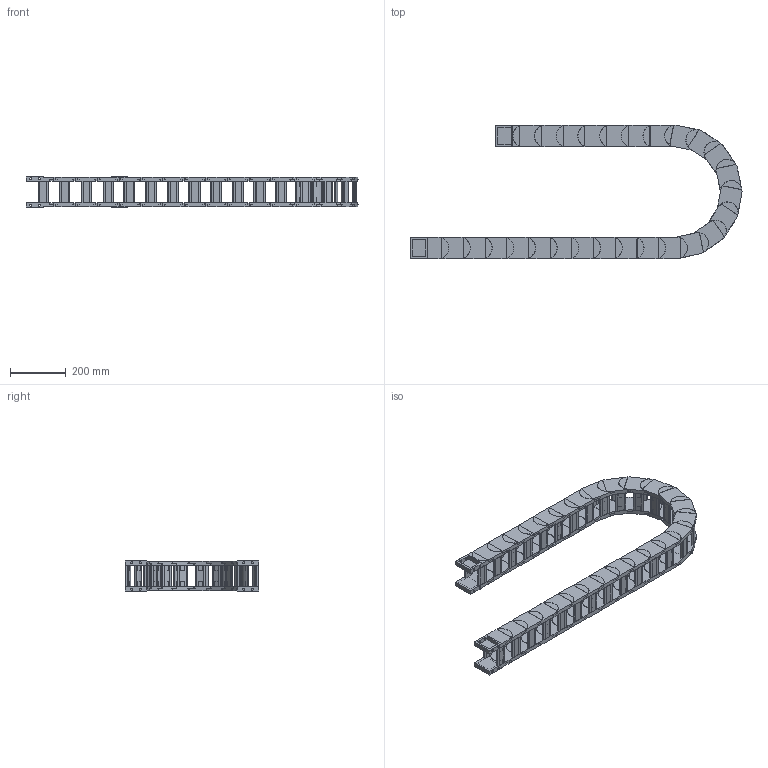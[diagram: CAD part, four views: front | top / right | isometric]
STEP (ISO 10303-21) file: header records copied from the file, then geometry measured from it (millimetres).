
FILE_DESCRIPTION((''),'2;1');
FILE_NAME('HD55-R200-ZPT_ASM','2022-06-17T19:47:38',('admin'),(''),'CREO PARAMETRIC BY PTC INC, 2021164','CREO PARAMETRIC BY PTC INC, 2021164','');
FILE_SCHEMA(('CONFIG_CONTROL_DESIGN','GEOMETRIC_VALIDATION_PROPERTIES_MIM'));
Length unit declared in the file: millimetre
Products named in the file (6): HD-55; 55-500001; HD55_ASM; H55-T1; H55-T2; HD55-R200-ZPT_ASM
Assembly tree (32 placements, depth 3):
  HD55-R200-ZPT_ASM
    HD55_ASM  x26
      HD-55
      55-500001
    H55-T1
    H55-T2
    55-500001  x2
Bounding box: 1186.04 x 475.95 x 107.3 mm (x, y, z)
Volume: 6187766.2 mm3; surface area: 1940471.9 mm2
Topology: 112 solids, 112 shells, 1854 faces, 4758 edges, 3244 vertices
Faces by surface type: plane 1532, cylinder 322
Entity records: 8807 total; most frequent: CARTESIAN_POINT 1300, DIRECTION 1262, ORIENTED_EDGE 1172, EDGE_CURVE 586, AXIS2_PLACEMENT_3D 422, VECTOR 418, LINE 418, VERTEX_POINT 396
